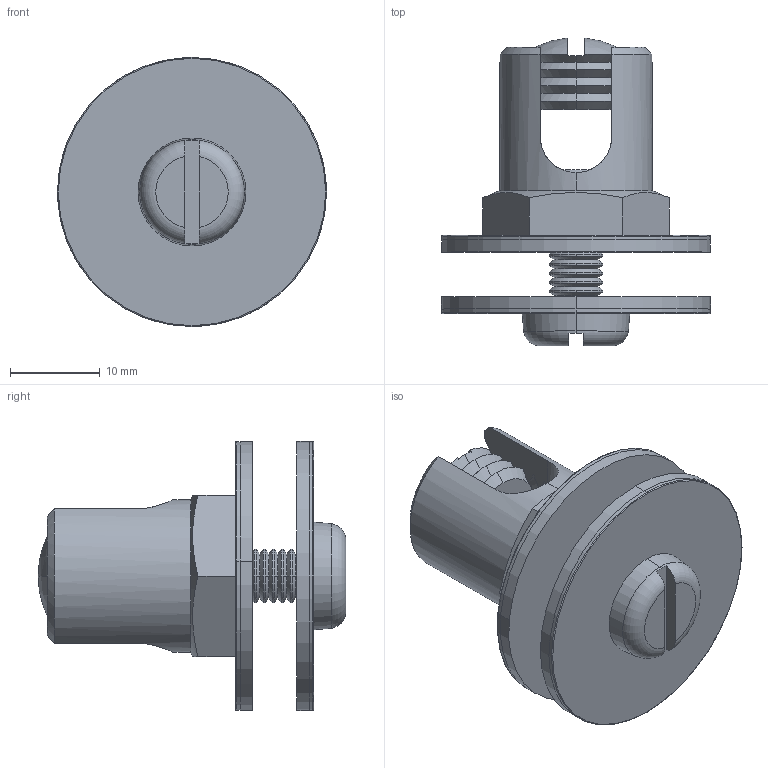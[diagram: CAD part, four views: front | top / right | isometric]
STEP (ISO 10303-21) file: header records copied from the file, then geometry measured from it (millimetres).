
FILE_DESCRIPTION (( 'STEP AP203' ), '1' );
FILE_NAME ('Borna a tierra TT - TTL.STEP', '2022-11-07T16:51:23', ( '' ), ( '' ), 'SwSTEP 2.0', 'SolidWorks 2019', '' );
FILE_SCHEMA (( 'CONFIG_CONTROL_DESIGN' ));
Length unit declared in the file: millimetre
Products named in the file (6): borna de tierra_tornillo rosca_ZZZZ x YYYY; borna de tierra_ZZZZ x YYYY; Slotted Pan Head Screw_DIN_ISO 1580 - M6 x 16 --- 16S; Borna a tierra TT - TTL; Borna TT 35_M6_ZZZZ X YYYY [pieza1]; Arandela bimetalica M6_ZZZZ x YYYY
Assembly tree (6 placements, depth 3):
  Borna a tierra TT - TTL
    Borna TT 35_M6_ZZZZ X YYYY [pieza1]
      borna de tierra_ZZZZ x YYYY
      borna de tierra_tornillo rosca_ZZZZ x YYYY
    Arandela bimetalica M6_ZZZZ x YYYY  x2
    Slotted Pan Head Screw_DIN_ISO 1580 - M6 x 16 --- 16S
Bounding box: 30 x 34.3 x 30 mm (x, y, z)
Volume: 6635.8 mm3; surface area: 9212.9 mm2
Topology: 7 solids, 7 shells, 222 faces, 556 edges, 348 vertices
Faces by surface type: cone 130, cylinder 50, plane 32, torus 6, sphere 4
Entity records: 7220 total; most frequent: CARTESIAN_POINT 1490, DIRECTION 1140, ORIENTED_EDGE 1056, EDGE_CURVE 528, AXIS2_PLACEMENT_3D 486, VERTEX_POINT 330, CIRCLE 268, EDGE_LOOP 214
